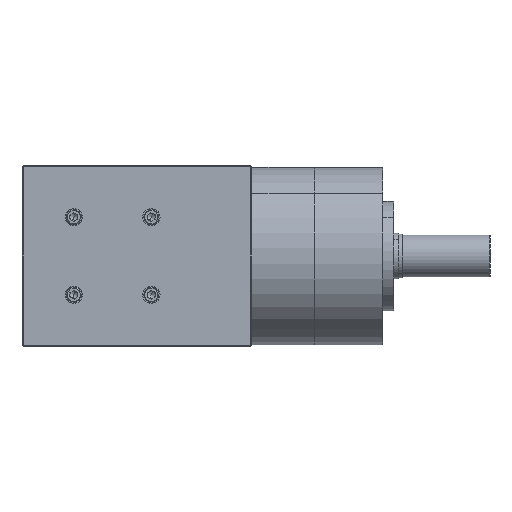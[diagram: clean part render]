
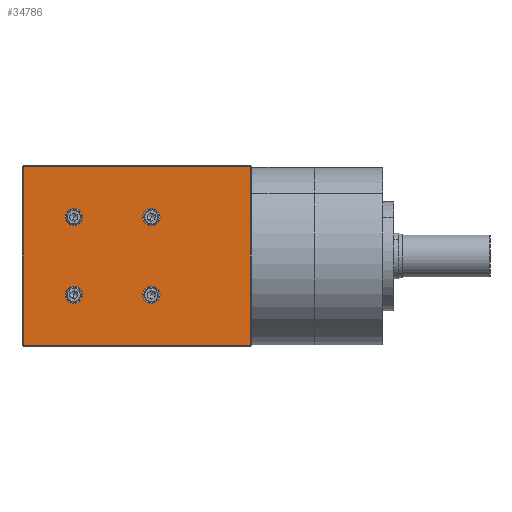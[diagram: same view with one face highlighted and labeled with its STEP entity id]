
A CAD part, front view. The second image highlights one B-rep face of the part: STEP entity #34786.
In plain terms, the highlighted planar face has unit normal (0, -1, 0).
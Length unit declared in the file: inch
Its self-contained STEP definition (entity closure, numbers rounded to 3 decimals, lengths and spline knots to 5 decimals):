
#162 = CARTESIAN_POINT ( 'NONE',  ( 8.57201, 0., 2.47775 ) ) ;
#829 = CIRCLE ( 'NONE', #51328, 0.15625 ) ;
#890 = ORIENTED_EDGE ( 'NONE', *, *, #35063, .F. ) ;
#1389 = ORIENTED_EDGE ( 'NONE', *, *, #16425, .T. ) ;
#1541 = DIRECTION ( 'NONE',  ( 0., -1., 0. ) ) ;
#1965 = EDGE_LOOP ( 'NONE', ( #50527, #890 ) ) ;
#2894 = EDGE_CURVE ( 'NONE', #18115, #13690, #32699, .T. ) ;
#3140 = DIRECTION ( 'NONE',  ( 0., 0., -1. ) ) ;
#3814 = AXIS2_PLACEMENT_3D ( 'NONE', #44339, #11254, #3140 ) ;
#4003 = DIRECTION ( 'NONE',  ( -1., 0., 0. ) ) ;
#4083 = VERTEX_POINT ( 'NONE', #35305 ) ;
#4109 = EDGE_CURVE ( 'NONE', #33025, #6605, #829, .T. ) ;
#4584 = CARTESIAN_POINT ( 'NONE',  ( 9.96501, 0., 2.16525 ) ) ;
#5052 = CARTESIAN_POINT ( 'NONE',  ( 8.57201, 0., 2.16525 ) ) ;
#5187 = CARTESIAN_POINT ( 'NONE',  ( 8.57201, 0., 2.3215 ) ) ;
#5506 = CARTESIAN_POINT ( 'NONE',  ( 8.57201, 0., 2.3215 ) ) ;
#5847 = CARTESIAN_POINT ( 'NONE',  ( 9.96501, 0., 1.08475 ) ) ;
#5914 = CARTESIAN_POINT ( 'NONE',  ( 8.57201, 0., 0.77225 ) ) ;
#6605 = VERTEX_POINT ( 'NONE', #41002 ) ;
#6798 = FACE_BOUND ( 'NONE', #1965, .T. ) ;
#6992 = DIRECTION ( 'NONE',  ( 0., 0., 1. ) ) ;
#7502 = DIRECTION ( 'NONE',  ( 0., 0., -1. ) ) ;
#7680 = DIRECTION ( 'NONE',  ( 0., -1., 0. ) ) ;
#8098 = FACE_OUTER_BOUND ( 'NONE', #39998, .T. ) ;
#9878 = VERTEX_POINT ( 'NONE', #5914 ) ;
#11254 = DIRECTION ( 'NONE',  ( 0., -1., 0. ) ) ;
#11313 = VERTEX_POINT ( 'NONE', #23574 ) ;
#11490 = EDGE_CURVE ( 'NONE', #11313, #28836, #31358, .T. ) ;
#11994 = FACE_BOUND ( 'NONE', #19815, .T. ) ;
#12285 = CIRCLE ( 'NONE', #40703, 0.15625 ) ;
#12780 = CIRCLE ( 'NONE', #30608, 0.15625 ) ;
#13690 = VERTEX_POINT ( 'NONE', #162 ) ;
#13815 = EDGE_CURVE ( 'NONE', #22654, #9878, #33765, .T. ) ;
#14340 = DIRECTION ( 'NONE',  ( 1., 0., 0. ) ) ;
#16104 = EDGE_CURVE ( 'NONE', #28836, #48328, #47279, .T. ) ;
#16425 = EDGE_CURVE ( 'NONE', #40768, #11313, #27431, .T. ) ;
#16456 = VECTOR ( 'NONE', #49917, 39.37008 ) ;
#18115 = VERTEX_POINT ( 'NONE', #5052 ) ;
#19103 = VECTOR ( 'NONE', #4003, 39.37008 ) ;
#19815 = EDGE_LOOP ( 'NONE', ( #44822, #23796 ) ) ;
#20573 = DIRECTION ( 'NONE',  ( 0., 0., -1. ) ) ;
#20759 = CARTESIAN_POINT ( 'NONE',  ( 8.57201, 0., 0.9285 ) ) ;
#21212 = VERTEX_POINT ( 'NONE', #4584 ) ;
#21788 = ORIENTED_EDGE ( 'NONE', *, *, #4109, .F. ) ;
#22217 = CARTESIAN_POINT ( 'NONE',  ( 9.96501, 0., 2.3215 ) ) ;
#22654 = VERTEX_POINT ( 'NONE', #37056 ) ;
#23437 = PLANE ( 'NONE',  #33755 ) ;
#23574 = CARTESIAN_POINT ( 'NONE',  ( 11.74851, 0., 3.23 ) ) ;
#23796 = ORIENTED_EDGE ( 'NONE', *, *, #13815, .F. ) ;
#23918 = EDGE_CURVE ( 'NONE', #48328, #40768, #45631, .T. ) ;
#24478 = EDGE_CURVE ( 'NONE', #4083, #21212, #12780, .T. ) ;
#24819 = CARTESIAN_POINT ( 'NONE',  ( 7.66351, 0., 3.25 ) ) ;
#24917 = CARTESIAN_POINT ( 'NONE',  ( 7.64351, 0., 3.23 ) ) ;
#26710 = DIRECTION ( 'NONE',  ( 0., -1., 0. ) ) ;
#27431 = LINE ( 'NONE', #33729, #16456 ) ;
#27445 = EDGE_CURVE ( 'NONE', #9878, #22654, #52220, .T. ) ;
#27936 = ORIENTED_EDGE ( 'NONE', *, *, #33377, .F. ) ;
#28128 = DIRECTION ( 'NONE',  ( 0., 1., 0. ) ) ;
#28158 = FACE_BOUND ( 'NONE', #47016, .T. ) ;
#28836 = VERTEX_POINT ( 'NONE', #48851 ) ;
#28882 = DIRECTION ( 'NONE',  ( 0., 0., -1. ) ) ;
#28929 = EDGE_CURVE ( 'NONE', #6605, #33025, #12285, .T. ) ;
#29802 = DIRECTION ( 'NONE',  ( 0., -1., 0. ) ) ;
#30403 = DIRECTION ( 'NONE',  ( 0., 0., -1. ) ) ;
#30608 = AXIS2_PLACEMENT_3D ( 'NONE', #22217, #26710, #35186 ) ;
#30745 = FACE_BOUND ( 'NONE', #35466, .T. ) ;
#31358 = LINE ( 'NONE', #24917, #19103 ) ;
#32699 = CIRCLE ( 'NONE', #45503, 0.15625 ) ;
#33025 = VERTEX_POINT ( 'NONE', #5847 ) ;
#33301 = DIRECTION ( 'NONE',  ( 0., 0., -1. ) ) ;
#33342 = DIRECTION ( 'NONE',  ( 0., 0., -1. ) ) ;
#33377 = EDGE_CURVE ( 'NONE', #21212, #4083, #52537, .T. ) ;
#33705 = CARTESIAN_POINT ( 'NONE',  ( 9.96501, 0., 0.9285 ) ) ;
#33729 = CARTESIAN_POINT ( 'NONE',  ( 11.74851, 0., 3.25 ) ) ;
#33755 = AXIS2_PLACEMENT_3D ( 'NONE', #39937, #28128, #6992 ) ;
#33765 = CIRCLE ( 'NONE', #3814, 0.15625 ) ;
#34786 = ADVANCED_FACE ( 'NONE', ( #8098, #6798, #11994, #28158, #30745 ), #23437, .F. ) ;
#35063 = EDGE_CURVE ( 'NONE', #13690, #18115, #36435, .T. ) ;
#35186 = DIRECTION ( 'NONE',  ( 0., 0., -1. ) ) ;
#35305 = CARTESIAN_POINT ( 'NONE',  ( 9.96501, 0., 2.47775 ) ) ;
#35466 = EDGE_LOOP ( 'NONE', ( #27936, #37648 ) ) ;
#35844 = VECTOR ( 'NONE', #33301, 39.37008 ) ;
#35894 = ORIENTED_EDGE ( 'NONE', *, *, #11490, .T. ) ;
#36349 = CARTESIAN_POINT ( 'NONE',  ( 9.96501, 0., 0.9285 ) ) ;
#36435 = CIRCLE ( 'NONE', #48405, 0.15625 ) ;
#37056 = CARTESIAN_POINT ( 'NONE',  ( 8.57201, 0., 1.08475 ) ) ;
#37116 = DIRECTION ( 'NONE',  ( 0., -1., 0. ) ) ;
#37599 = DIRECTION ( 'NONE',  ( 0., -1., 0. ) ) ;
#37648 = ORIENTED_EDGE ( 'NONE', *, *, #24478, .F. ) ;
#37913 = VECTOR ( 'NONE', #14340, 39.37008 ) ;
#38647 = AXIS2_PLACEMENT_3D ( 'NONE', #49924, #29802, #50274 ) ;
#39937 = CARTESIAN_POINT ( 'NONE',  ( 7.64351, 0., 3.25 ) ) ;
#39998 = EDGE_LOOP ( 'NONE', ( #40309, #1389, #35894, #45527 ) ) ;
#40309 = ORIENTED_EDGE ( 'NONE', *, *, #23918, .T. ) ;
#40703 = AXIS2_PLACEMENT_3D ( 'NONE', #33705, #37116, #28882 ) ;
#40768 = VERTEX_POINT ( 'NONE', #46620 ) ;
#40933 = ORIENTED_EDGE ( 'NONE', *, *, #28929, .F. ) ;
#41002 = CARTESIAN_POINT ( 'NONE',  ( 9.96501, 0., 0.77225 ) ) ;
#42954 = CARTESIAN_POINT ( 'NONE',  ( 7.64351, 0., 0.02 ) ) ;
#44339 = CARTESIAN_POINT ( 'NONE',  ( 8.57201, 0., 0.9285 ) ) ;
#44822 = ORIENTED_EDGE ( 'NONE', *, *, #27445, .F. ) ;
#45503 = AXIS2_PLACEMENT_3D ( 'NONE', #5506, #1541, #30403 ) ;
#45527 = ORIENTED_EDGE ( 'NONE', *, *, #16104, .T. ) ;
#45631 = LINE ( 'NONE', #42954, #37913 ) ;
#46620 = CARTESIAN_POINT ( 'NONE',  ( 11.74851, 0., 0.02 ) ) ;
#47016 = EDGE_LOOP ( 'NONE', ( #40933, #21788 ) ) ;
#47279 = LINE ( 'NONE', #24819, #35844 ) ;
#48328 = VERTEX_POINT ( 'NONE', #49182 ) ;
#48405 = AXIS2_PLACEMENT_3D ( 'NONE', #5187, #37599, #33342 ) ;
#48851 = CARTESIAN_POINT ( 'NONE',  ( 7.66351, 0., 3.23 ) ) ;
#49182 = CARTESIAN_POINT ( 'NONE',  ( 7.66351, 0., 0.02 ) ) ;
#49917 = DIRECTION ( 'NONE',  ( 0., 0., 1. ) ) ;
#49924 = CARTESIAN_POINT ( 'NONE',  ( 9.96501, 0., 2.3215 ) ) ;
#50274 = DIRECTION ( 'NONE',  ( 0., 0., -1. ) ) ;
#50527 = ORIENTED_EDGE ( 'NONE', *, *, #2894, .F. ) ;
#51328 = AXIS2_PLACEMENT_3D ( 'NONE', #36349, #7680, #7502 ) ;
#52220 = CIRCLE ( 'NONE', #53302, 0.15625 ) ;
#52537 = CIRCLE ( 'NONE', #38647, 0.15625 ) ;
#53192 = DIRECTION ( 'NONE',  ( 0., -1., 0. ) ) ;
#53302 = AXIS2_PLACEMENT_3D ( 'NONE', #20759, #53192, #20573 ) ;
